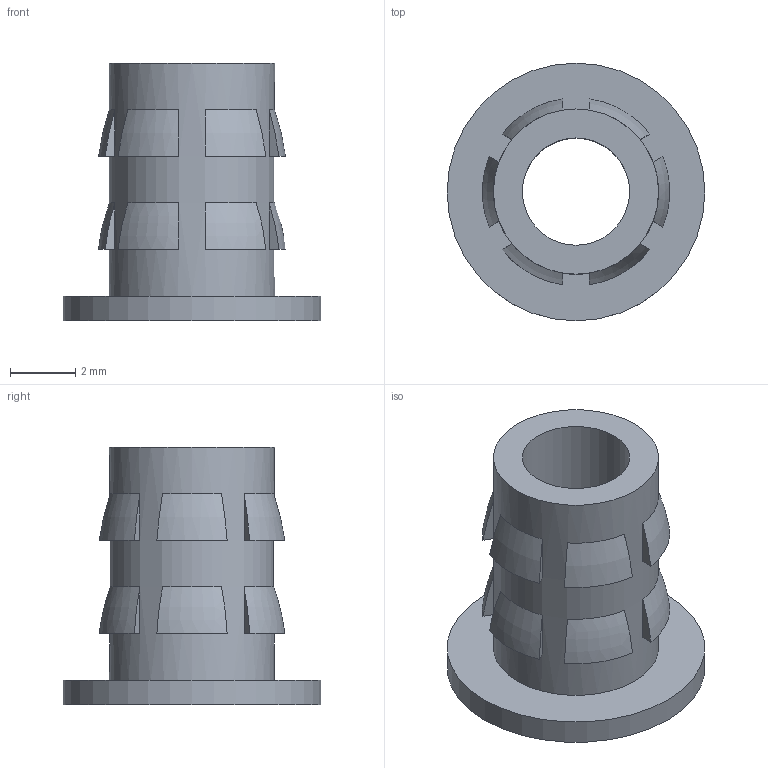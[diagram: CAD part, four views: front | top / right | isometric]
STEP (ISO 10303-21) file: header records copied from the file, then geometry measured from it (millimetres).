
FILE_DESCRIPTION (( 'STEP AP214' ), '1' );
FILE_NAME ('flanged insert M4.STEP', '2017-08-09T04:31:16', ( '微软用户' ), ( '微软中国' ), 'SwSTEP 2.0', 'SolidWorks 2015', '' );
FILE_SCHEMA (( 'AUTOMOTIVE_DESIGN' ));
Length unit declared in the file: millimetre
Products named in the file (1): flanged insert M4
Bounding box: 7.92 x 7.92 x 7.92 mm (x, y, z)
Volume: 117.3 mm3; surface area: 312.6 mm2
Topology: 1 solids, 1 shells, 55 faces, 125 edges, 83 vertices
Faces by surface type: plane 39, torus 12, cylinder 3, cone 1
Full cylindrical faces by diameter (mm): 3.3 x1, 5.08 x1, 7.925 x1
Entity records: 1582 total; most frequent: CARTESIAN_POINT 354, DIRECTION 246, ORIENTED_EDGE 230, EDGE_CURVE 115, AXIS2_PLACEMENT_3D 99, VERTEX_POINT 79, EDGE_LOOP 74, FACE_OUTER_BOUND 58
